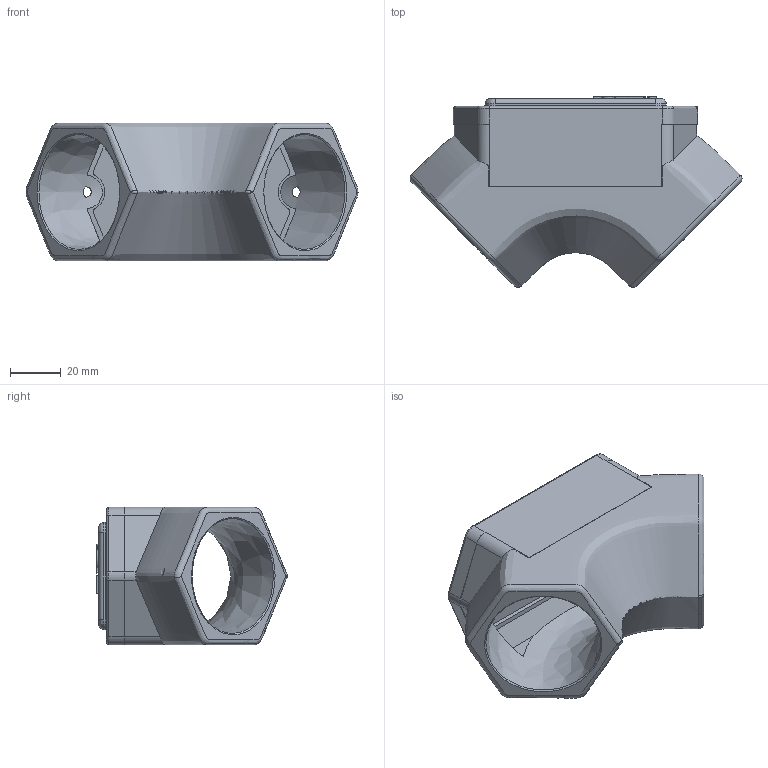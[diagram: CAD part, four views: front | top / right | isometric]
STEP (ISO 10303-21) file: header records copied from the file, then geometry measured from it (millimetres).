
FILE_DESCRIPTION (( 'STEP AP203' ), '1' );
FILE_NAME ('ﾑﾊﾂﾅ-ﾓ1.STP', '2024-03-07T06:37:58', ( '' ), ( '' ), 'SwSTEP 2.0', 'SolidWorks 2018', '' );
FILE_SCHEMA (( 'CONFIG_CONTROL_DESIGN' ));
Length unit declared in the file: millimetre
Products named in the file (1): ﾑﾊﾂﾅ-ﾓ1
Bounding box: 130.24 x 74.86 x 54 mm (x, y, z)
Volume: 88243.7 mm3; surface area: 47907.1 mm2
Topology: 1 solids, 2 shells, 433 faces, 1082 edges, 654 vertices
Faces by surface type: cylinder 158, plane 130, bspline 108, sphere 19, torus 14, cone 4
Full cylindrical faces by diameter (mm): 4.2 x2, 6 x2
Entity records: 36078 total; most frequent: CARTESIAN_POINT 26885, ORIENTED_EDGE 2070, DIRECTION 1596, EDGE_CURVE 1035, VERTEX_POINT 634, AXIS2_PLACEMENT_3D 548, LINE 500, VECTOR 500
